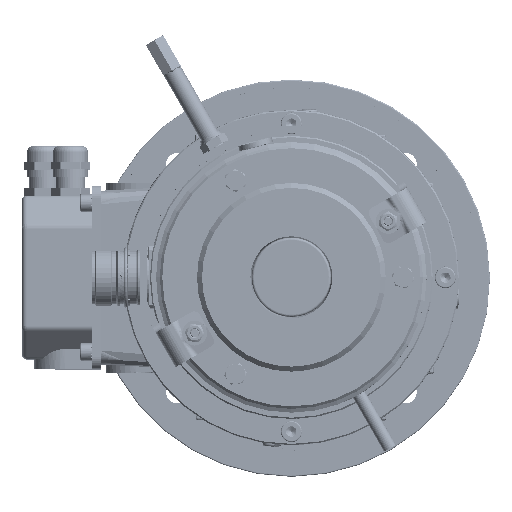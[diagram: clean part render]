
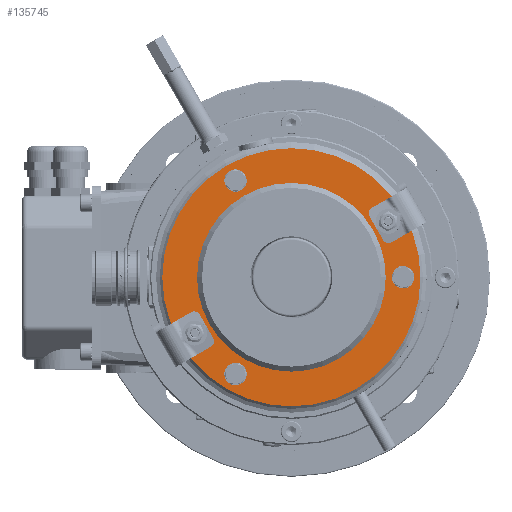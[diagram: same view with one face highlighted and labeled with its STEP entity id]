
A CAD part, top view. The second image highlights one B-rep face of the part: STEP entity #135745.
In plain terms, the highlighted planar face has unit normal (0, 0, 1).
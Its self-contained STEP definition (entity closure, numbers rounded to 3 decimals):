
#1096=FACE_BOUND('',#34395,.T.);
#1097=FACE_BOUND('',#34396,.T.);
#1098=FACE_BOUND('',#34397,.T.);
#1099=FACE_BOUND('',#34398,.T.);
#1100=FACE_BOUND('',#34399,.T.);
#1101=FACE_BOUND('',#34400,.T.);
#1102=FACE_BOUND('',#34401,.T.);
#1103=FACE_BOUND('',#34402,.T.);
#1104=FACE_BOUND('',#34403,.T.);
#1105=FACE_BOUND('',#34404,.T.);
#5455=PLANE('',#144712);
#9202=LINE('',#202817,#16779);
#9203=LINE('',#202818,#16780);
#9204=LINE('',#202819,#16781);
#9205=LINE('',#202820,#16782);
#16779=VECTOR('',#161079,7.782);
#16780=VECTOR('',#161080,7.782);
#16781=VECTOR('',#161081,7.782);
#16782=VECTOR('',#161082,7.782);
#26010=FACE_OUTER_BOUND('',#34394,.T.);
#34394=EDGE_LOOP('',(#86778));
#34395=EDGE_LOOP('',(#86779,#86780));
#34396=EDGE_LOOP('',(#86781,#86782));
#34397=EDGE_LOOP('',(#86783,#86784));
#34398=EDGE_LOOP('',(#86785,#86786));
#34399=EDGE_LOOP('',(#86787));
#34400=EDGE_LOOP('',(#86788));
#34401=EDGE_LOOP('',(#86789));
#34402=EDGE_LOOP('',(#86790));
#34403=EDGE_LOOP('',(#86791));
#34404=EDGE_LOOP('',(#86792));
#44641=CIRCLE('',#144573,4.5);
#44652=CIRCLE('',#144603,4.5);
#44663=CIRCLE('',#144633,4.5);
#44697=CIRCLE('',#144711,38.);
#44698=CIRCLE('',#144713,52.);
#44699=CIRCLE('',#144714,2.6);
#44700=CIRCLE('',#144715,2.6);
#51751=VERTEX_POINT('',#199651);
#51752=VERTEX_POINT('',#199653);
#51762=VERTEX_POINT('',#199682);
#51765=VERTEX_POINT('',#199693);
#51859=VERTEX_POINT('',#200148);
#51860=VERTEX_POINT('',#200150);
#51875=VERTEX_POINT('',#200197);
#51887=VERTEX_POINT('',#200224);
#52279=VERTEX_POINT('',#202216);
#52302=VERTEX_POINT('',#202319);
#52325=VERTEX_POINT('',#202422);
#52383=VERTEX_POINT('',#202811);
#52384=VERTEX_POINT('',#202815);
#52385=VERTEX_POINT('',#202821);
#52386=VERTEX_POINT('',#202823);
#64983=EDGE_CURVE('',#52279,#52279,#44641,.T.);
#65020=EDGE_CURVE('',#52302,#52302,#44652,.T.);
#65057=EDGE_CURVE('',#52325,#52325,#44663,.T.);
#65148=EDGE_CURVE('',#52383,#52383,#44697,.T.);
#65150=EDGE_CURVE('',#52384,#52384,#44698,.T.);
#65151=EDGE_CURVE('',#51752,#51751,#9202,.T.);
#65152=EDGE_CURVE('',#51765,#51762,#9203,.T.);
#65153=EDGE_CURVE('',#51860,#51859,#9204,.T.);
#65154=EDGE_CURVE('',#51875,#51887,#9205,.T.);
#65155=EDGE_CURVE('',#52385,#52385,#44699,.T.);
#65156=EDGE_CURVE('',#52386,#52386,#44700,.T.);
#86778=ORIENTED_EDGE('',*,*,#65150,.T.);
#86779=ORIENTED_EDGE('',*,*,#65151,.T.);
#86780=ORIENTED_EDGE('',*,*,#65151,.F.);
#86781=ORIENTED_EDGE('',*,*,#65152,.T.);
#86782=ORIENTED_EDGE('',*,*,#65152,.F.);
#86783=ORIENTED_EDGE('',*,*,#65153,.T.);
#86784=ORIENTED_EDGE('',*,*,#65153,.F.);
#86785=ORIENTED_EDGE('',*,*,#65154,.T.);
#86786=ORIENTED_EDGE('',*,*,#65154,.F.);
#86787=ORIENTED_EDGE('',*,*,#64983,.T.);
#86788=ORIENTED_EDGE('',*,*,#65020,.T.);
#86789=ORIENTED_EDGE('',*,*,#65057,.T.);
#86790=ORIENTED_EDGE('',*,*,#65155,.T.);
#86791=ORIENTED_EDGE('',*,*,#65156,.T.);
#86792=ORIENTED_EDGE('',*,*,#65148,.F.);
#135745=ADVANCED_FACE('',(#26010,#1096,#1097,#1098,#1099,#1100,#1101,#1102,
#1103,#1104,#1105),#5455,.T.);
#144573=AXIS2_PLACEMENT_3D('',#202218,#160735,#160736);
#144603=AXIS2_PLACEMENT_3D('',#202321,#160809,#160810);
#144633=AXIS2_PLACEMENT_3D('',#202424,#160883,#160884);
#144711=AXIS2_PLACEMENT_3D('',#202812,#161072,#161073);
#144712=AXIS2_PLACEMENT_3D('',#202814,#161075,#161076);
#144713=AXIS2_PLACEMENT_3D('',#202816,#161077,#161078);
#144714=AXIS2_PLACEMENT_3D('',#202822,#161083,#161084);
#144715=AXIS2_PLACEMENT_3D('',#202824,#161085,#161086);
#160735=DIRECTION('center_axis',(0.,0.,
-1.));
#160736=DIRECTION('ref_axis',(-0.866,-0.5,0.));
#160809=DIRECTION('center_axis',(0.,0.,
-1.));
#160810=DIRECTION('ref_axis',(-0.866,-0.5,0.));
#160883=DIRECTION('center_axis',(0.,0.,
-1.));
#160884=DIRECTION('ref_axis',(-0.866,-0.5,0.));
#161072=DIRECTION('center_axis',(0.,0.,
1.));
#161073=DIRECTION('ref_axis',(-0.5,0.866,0.));
#161075=DIRECTION('center_axis',(0.,0.,
1.));
#161076=DIRECTION('ref_axis',(0.866,0.5,0.));
#161077=DIRECTION('center_axis',(0.,0.,
1.));
#161078=DIRECTION('ref_axis',(-0.5,0.866,0.));
#161079=DIRECTION('',(-0.866,-0.5,0.));
#161080=DIRECTION('',(-0.866,-0.5,0.));
#161081=DIRECTION('',(-0.866,-0.5,0.));
#161082=DIRECTION('',(-0.866,-0.5,0.));
#161083=DIRECTION('center_axis',(0.,0.,
-1.));
#161084=DIRECTION('ref_axis',(-0.866,-0.5,0.));
#161085=DIRECTION('center_axis',(0.,0.,
-1.));
#161086=DIRECTION('ref_axis',(0.866,0.5,0.));
#199651=CARTESIAN_POINT('',(32.373,27.928,194.4));
#199653=CARTESIAN_POINT('',(39.112,31.819,194.4));
#199682=CARTESIAN_POINT('',(40.373,14.072,194.4));
#199693=CARTESIAN_POINT('',(47.112,17.963,194.4));
#200148=CARTESIAN_POINT('',(-47.112,-17.963,194.4));
#200150=CARTESIAN_POINT('',(-40.373,-14.072,194.4));
#200197=CARTESIAN_POINT('',(-32.373,-27.928,194.4));
#200224=CARTESIAN_POINT('',(-39.112,-31.819,194.4));
#202216=CARTESIAN_POINT('',(48.897,2.25,194.4));
#202218=CARTESIAN_POINT('Origin',(45.,0.,
194.4));
#202319=CARTESIAN_POINT('',(-18.603,-36.721,194.4));
#202321=CARTESIAN_POINT('Origin',(-22.5,-38.971,194.4));
#202422=CARTESIAN_POINT('',(-18.603,41.221,194.4));
#202424=CARTESIAN_POINT('Origin',(-22.5,38.971,194.4));
#202811=CARTESIAN_POINT('',(19.,-32.909,194.4));
#202812=CARTESIAN_POINT('Origin',(0.,0.,
194.4));
#202814=CARTESIAN_POINT('Origin',(-22.5,38.971,194.4));
#202815=CARTESIAN_POINT('',(26.,-45.033,194.4));
#202816=CARTESIAN_POINT('Origin',(0.,0.,
194.4));
#202817=CARTESIAN_POINT('',(13.104,16.803,194.4));
#202818=CARTESIAN_POINT('',(28.032,6.947,194.4));
#202819=CARTESIAN_POINT('',(-21.104,-2.947,194.4));
#202820=CARTESIAN_POINT('',(-20.032,-20.803,194.4));
#202821=CARTESIAN_POINT('',(41.223,23.8,194.4));
#202822=CARTESIAN_POINT('Origin',(38.971,22.5,194.4));
#202823=CARTESIAN_POINT('',(-41.223,-23.8,194.4));
#202824=CARTESIAN_POINT('Origin',(-38.971,-22.5,194.4));
